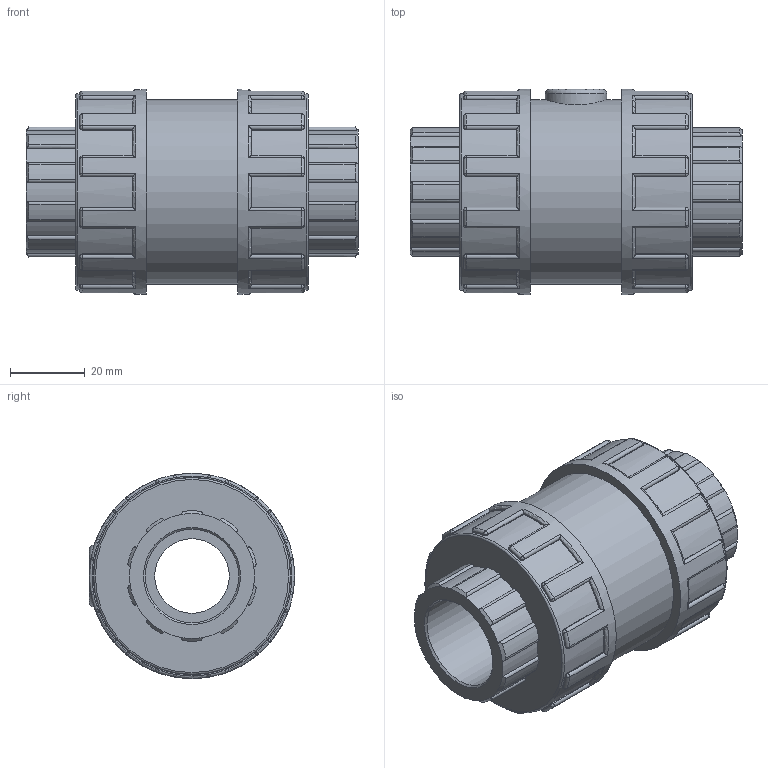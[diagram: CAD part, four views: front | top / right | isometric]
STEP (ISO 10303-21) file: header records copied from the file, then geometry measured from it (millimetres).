
FILE_DESCRIPTION(/* description */ ('PLASSON AIR RELEASE VALVE CEM PVC 25'),/* implementation_level */ '2;1');
FILE_NAME(/* name */ 'C:\Dropbox\KIMPROJECTS-Inventor\99-16-3568-Processing\PVC Catalog 2017\116300 - 116900\116300025.ipt.stp',/* time_stamp */ '2017-12-07T16:13:20+02:00',/* author */ ('KIM'),/* organization */ (''),/* preprocessor_version */ 'ST-DEVELOPER v15.6',/* originating_system */ 'Autodesk Inventor 2015',/* authorisation */ '');
FILE_SCHEMA (('AUTOMOTIVE_DESIGN { 1 0 10303 214 3 1 1 }'));
Length unit declared in the file: millimetre
Products named in the file (1): 116300025
Bounding box: 89 x 55 x 55 mm (x, y, z)
Volume: 123951.3 mm3; surface area: 24942.9 mm2
Topology: 1 solids, 1 shells, 411 faces, 1021 edges, 618 vertices
Faces by surface type: cylinder 185, plane 105, torus 51, sphere 48, cone 22
Full cylindrical faces by diameter (mm): 16.5 x1, 20 x1, 25 x2, 49.5 x1, 52.8 x2, 55 x2
Entity records: 13378 total; most frequent: CARTESIAN_POINT 3599, DIRECTION 2180, ORIENTED_EDGE 1998, EDGE_CURVE 999, AXIS2_PLACEMENT_3D 906, VERTEX_POINT 611, CIRCLE 494, EDGE_LOOP 434
